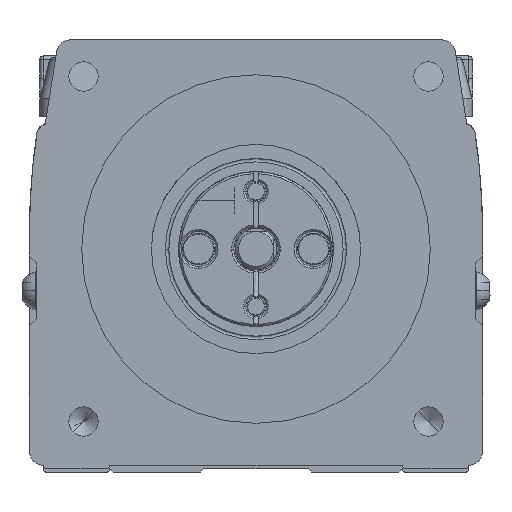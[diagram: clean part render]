
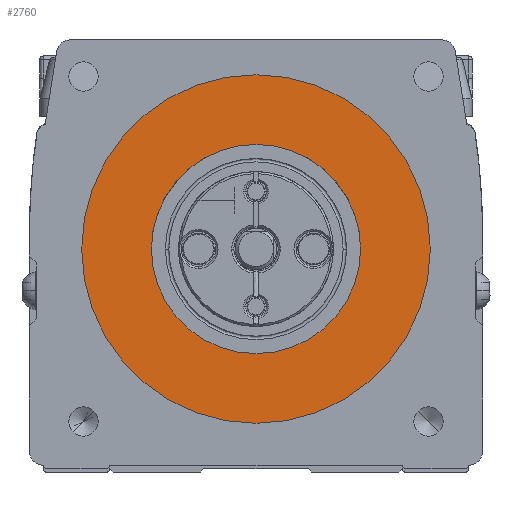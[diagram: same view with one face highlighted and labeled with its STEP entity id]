
A CAD part, left-side view. The second image highlights one B-rep face of the part: STEP entity #2760.
In plain terms, the highlighted planar face has unit normal (-1, 0, 0).
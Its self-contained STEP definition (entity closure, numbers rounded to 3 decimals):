
#2760=ADVANCED_FACE('',(#5042,#5043),#5044,.F.);
#5042=FACE_BOUND('',#9824,.T.);
#5043=FACE_OUTER_BOUND('',#9825,.T.);
#5044=PLANE('',#9826);
#9824=EDGE_LOOP('',(#16841,#16842));
#9825=EDGE_LOOP('',(#16843,#16844));
#9826=AXIS2_PLACEMENT_3D('',#16845,#16846,#16847);
#16841=ORIENTED_EDGE('',*,*,#34717,.T.);
#16842=ORIENTED_EDGE('',*,*,#34815,.T.);
#16843=ORIENTED_EDGE('',*,*,#34848,.T.);
#16844=ORIENTED_EDGE('',*,*,#34709,.T.);
#16845=CARTESIAN_POINT('',(-76.5,0.,0.));
#16846=DIRECTION('',(1.0,0.,0.));
#16847=DIRECTION('',(0.,1.0,0.));
#34709=EDGE_CURVE('',#40564,#40561,#40565,.T.);
#34717=EDGE_CURVE('',#40578,#40575,#40579,.T.);
#34815=EDGE_CURVE('',#40575,#40578,#40740,.T.);
#34848=EDGE_CURVE('',#40561,#40564,#40797,.T.);
#40561=VERTEX_POINT('',#50237);
#40564=VERTEX_POINT('',#50241);
#40565=CIRCLE('',#50242,25.0);
#40575=VERTEX_POINT('',#50277);
#40578=VERTEX_POINT('',#50281);
#40579=CIRCLE('',#50282,15.0);
#40740=CIRCLE('',#50564,15.0);
#40797=CIRCLE('',#50700,25.0);
#50237=CARTESIAN_POINT('',(-76.5,25.,0.));
#50241=CARTESIAN_POINT('',(-76.5,-25.,0.));
#50242=AXIS2_PLACEMENT_3D('',#65169,#65170,#65171);
#50277=CARTESIAN_POINT('',(-76.5,15.0,0.));
#50281=CARTESIAN_POINT('',(-76.5,-15.,0.));
#50282=AXIS2_PLACEMENT_3D('',#65179,#65180,#65181);
#50564=AXIS2_PLACEMENT_3D('',#65339,#65340,#65341);
#50700=AXIS2_PLACEMENT_3D('',#65396,#65397,#65398);
#65169=CARTESIAN_POINT('',(-76.5,0.,0.));
#65170=DIRECTION('',(-1.0,0.,0.));
#65171=DIRECTION('',(0.,1.0,0.));
#65179=CARTESIAN_POINT('',(-76.5,0.,0.));
#65180=DIRECTION('',(1.0,0.,0.));
#65181=DIRECTION('',(0.,1.0,0.));
#65339=CARTESIAN_POINT('',(-76.5,0.,0.));
#65340=DIRECTION('',(1.0,0.,0.));
#65341=DIRECTION('',(0.,1.0,0.));
#65396=CARTESIAN_POINT('',(-76.5,0.,0.));
#65397=DIRECTION('',(-1.0,0.,0.));
#65398=DIRECTION('',(0.,1.0,0.));
